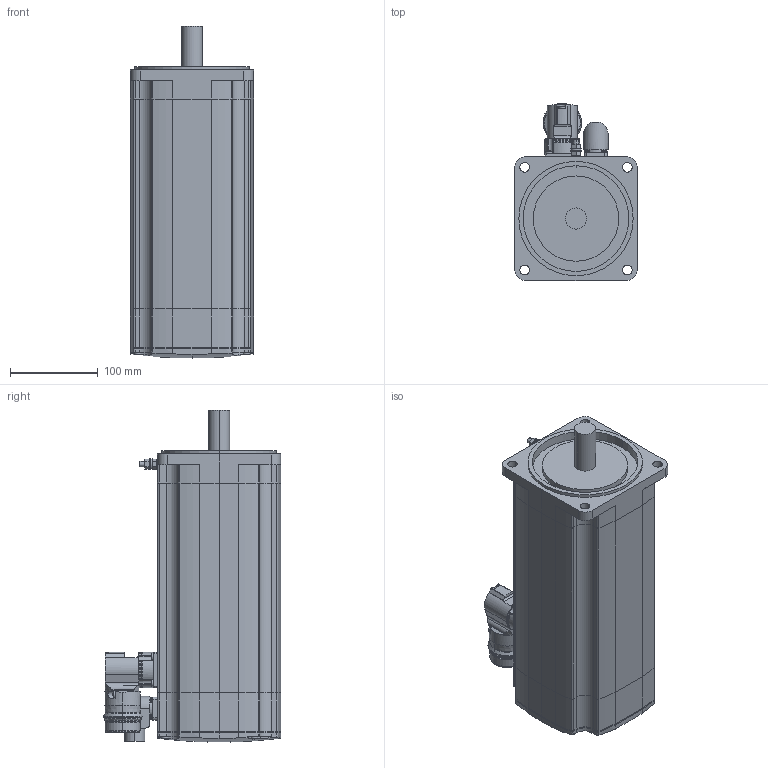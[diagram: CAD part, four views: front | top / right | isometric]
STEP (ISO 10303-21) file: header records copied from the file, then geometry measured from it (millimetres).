
FILE_DESCRIPTION (( 'STEP AP214' ), '1' );
FILE_NAME ('SH31403x0xA2100.STEP', '2013-11-29T10:25:31', ( 'Windows User' ), ( 'Schneider-Electric' ), 'SwSTEP 2.0', 'SolidWorks 2010', '' );
FILE_SCHEMA (( 'AUTOMOTIVE_DESIGN' ));
Length unit declared in the file: millimetre
Products named in the file (9): 1-100005039_DECKEL SH3-140X-X_VM0_Deckel; 1-100010983_K-FLACHDICHTUNG BMH-MH3-140X_000; 1-100009292_LAGERSCHILD SH3-140X-A_VM0_Lagerschild SH3-140x-A; 1-100010761_K-GEHÄUSE SH3-140X_VM0_Gehäuse SH3-1403-A-M23; 1-100010773_K-FLANSCH SH3-140X_VM0_Flansch SH3-140x mit Welle ohne Passfeder; 1-100009587_K-ERDUNGSBOLZEN M6_VM1; K-ENCODER-CONINVERS-ABGEW_ENCODER-CONINVERS-ABGEWINKELT_000_Single- MultiTurn; 1-100010211_POWER M40 ABGEWINKELT VEREINFACHT_000_ohne Bremse; SH31403x0xA2100
Assembly tree (8 placements, depth 2):
  SH31403x0xA2100
    1-100009587_K-ERDUNGSBOLZEN M6_VM1
    1-100010773_K-FLANSCH SH3-140X_VM0_Flansch SH3-140x mit Welle ohne Passfeder
    1-100010761_K-GEHÄUSE SH3-140X_VM0_Gehäuse SH3-1403-A-M23
    1-100009292_LAGERSCHILD SH3-140X-A_VM0_Lagerschild SH3-140x-A
    1-100010983_K-FLACHDICHTUNG BMH-MH3-140X_000
    1-100005039_DECKEL SH3-140X-X_VM0_Deckel
    1-100010211_POWER M40 ABGEWINKELT VEREINFACHT_000_ohne Bremse
    K-ENCODER-CONINVERS-ABGEW_ENCODER-CONINVERS-ABGEWINKELT_000_Single- MultiTurn
Bounding box: 140 x 201.5 x 377.35 mm (x, y, z)
Volume: 5771194 mm3; surface area: 386767.8 mm2
Topology: 8 solids, 8 shells, 750 faces, 1912 edges, 1238 vertices
Faces by surface type: cylinder 341, plane 320, bspline 54, cone 23, torus 8, sphere 4
Entity records: 30414 total; most frequent: CARTESIAN_POINT 7854, DIRECTION 3904, ORIENTED_EDGE 3796, EDGE_CURVE 1898, AXIS2_PLACEMENT_3D 1465, VERTEX_POINT 1238, VECTOR 974, LINE 974
